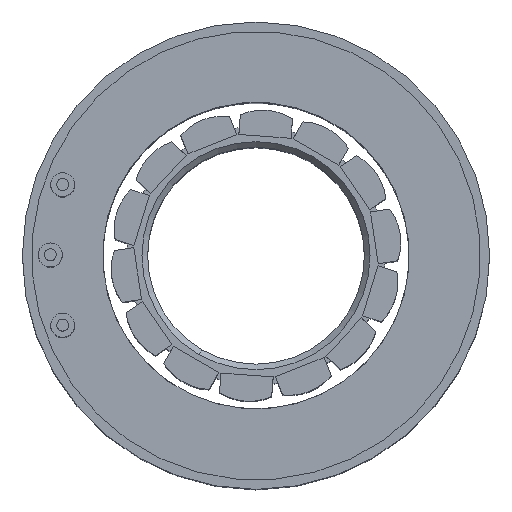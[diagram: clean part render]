
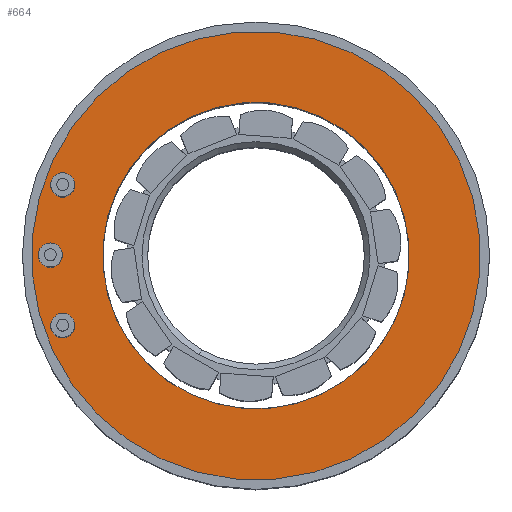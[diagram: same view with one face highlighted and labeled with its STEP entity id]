
A CAD part, top view. The second image highlights one B-rep face of the part: STEP entity #664.
In plain terms, the highlighted planar face has unit normal (0, 0, 1).
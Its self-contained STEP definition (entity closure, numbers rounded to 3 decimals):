
#20 = AXIS2_PLACEMENT_3D ( 'NONE', #5426, #289, #3759 ) ;
#177 = VERTEX_POINT ( 'NONE', #3667 ) ;
#289 = DIRECTION ( 'NONE',  ( 0., 0., 1. ) ) ;
#302 = VERTEX_POINT ( 'NONE', #1414 ) ;
#370 = DIRECTION ( 'NONE',  ( 0., 0., 1. ) ) ;
#382 = AXIS2_PLACEMENT_3D ( 'NONE', #5081, #2825, #2991 ) ;
#664 = ADVANCED_FACE ( 'NONE', ( #780, #1096 ), #1122, .T. ) ;
#681 = EDGE_CURVE ( 'NONE', #302, #1907, #4705, .T. ) ;
#754 = CARTESIAN_POINT ( 'NONE',  ( 0., 0., 21.2 ) ) ;
#780 = FACE_OUTER_BOUND ( 'NONE', #4096, .T. ) ;
#895 = AXIS2_PLACEMENT_3D ( 'NONE', #754, #370, #4083 ) ;
#1035 = ORIENTED_EDGE ( 'NONE', *, *, #2709, .T. ) ;
#1096 = FACE_BOUND ( 'NONE', #4499, .T. ) ;
#1122 = PLANE ( 'NONE',  #895 ) ;
#1371 = CIRCLE ( 'NONE', #382, 8.2 ) ;
#1414 = CARTESIAN_POINT ( 'NONE',  ( 11.594, 3.094, 21.2 ) ) ;
#1434 = CIRCLE ( 'NONE', #4511, 8.2 ) ;
#1546 = ORIENTED_EDGE ( 'NONE', *, *, #5428, .F. ) ;
#1604 = AXIS2_PLACEMENT_3D ( 'NONE', #3304, #4703, #2588 ) ;
#1749 = CARTESIAN_POINT ( 'NONE',  ( 0., 0., 21.2 ) ) ;
#1845 = ORIENTED_EDGE ( 'NONE', *, *, #681, .T. ) ;
#1849 = VERTEX_POINT ( 'NONE', #4163 ) ;
#1907 = VERTEX_POINT ( 'NONE', #4351 ) ;
#2211 = ORIENTED_EDGE ( 'NONE', *, *, #2805, .F. ) ;
#2588 = DIRECTION ( 'NONE',  ( 0.966, 0.258, 0. ) ) ;
#2709 = EDGE_CURVE ( 'NONE', #1907, #302, #2761, .T. ) ;
#2761 = CIRCLE ( 'NONE', #1604, 12. ) ;
#2805 = EDGE_CURVE ( 'NONE', #1849, #177, #1434, .T. ) ;
#2825 = DIRECTION ( 'NONE',  ( 0., 0., 1. ) ) ;
#2991 = DIRECTION ( 'NONE',  ( 0.966, 0.258, 0. ) ) ;
#3304 = CARTESIAN_POINT ( 'NONE',  ( 0., 0., 21.2 ) ) ;
#3412 = DIRECTION ( 'NONE',  ( 0.966, 0.258, 0. ) ) ;
#3667 = CARTESIAN_POINT ( 'NONE',  ( 7.923, 2.115, 21.2 ) ) ;
#3759 = DIRECTION ( 'NONE',  ( 0.966, 0.258, 0. ) ) ;
#4083 = DIRECTION ( 'NONE',  ( 0.966, 0.258, 0. ) ) ;
#4096 = EDGE_LOOP ( 'NONE', ( #1035, #1845 ) ) ;
#4163 = CARTESIAN_POINT ( 'NONE',  ( -7.923, -2.115, 21.2 ) ) ;
#4289 = DIRECTION ( 'NONE',  ( 0., 0., 1. ) ) ;
#4351 = CARTESIAN_POINT ( 'NONE',  ( -11.594, -3.094, 21.2 ) ) ;
#4499 = EDGE_LOOP ( 'NONE', ( #2211, #1546 ) ) ;
#4511 = AXIS2_PLACEMENT_3D ( 'NONE', #1749, #4289, #3412 ) ;
#4703 = DIRECTION ( 'NONE',  ( 0., 0., 1. ) ) ;
#4705 = CIRCLE ( 'NONE', #20, 12. ) ;
#5081 = CARTESIAN_POINT ( 'NONE',  ( 0., 0., 21.2 ) ) ;
#5426 = CARTESIAN_POINT ( 'NONE',  ( 0., 0., 21.2 ) ) ;
#5428 = EDGE_CURVE ( 'NONE', #177, #1849, #1371, .T. ) ;
